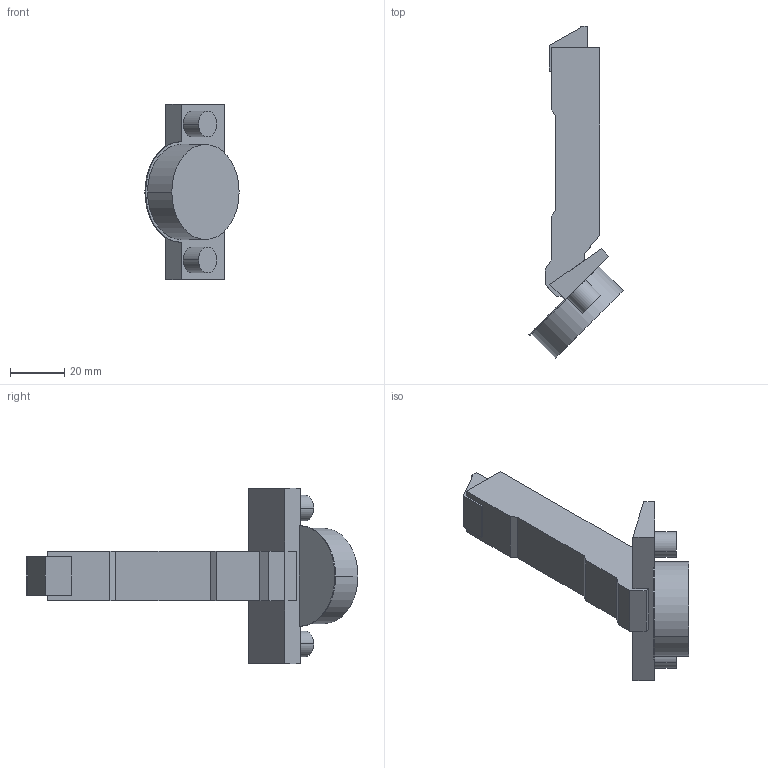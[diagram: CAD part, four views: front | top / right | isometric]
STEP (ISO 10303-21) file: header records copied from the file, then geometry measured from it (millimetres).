
FILE_DESCRIPTION (( 'STEP AP214' ), '1' );
FILE_NAME ('Scharnier T Impresso 120°_-45° HS_BB, aufliegend.step', '2010-12-13T09:58:23', ( 'grass' ), ( '' ), 'SwSTEP 2.0', 'SolidWorks 2010', '' );
FILE_SCHEMA (( 'AUTOMOTIVE_DESIGN' ));
Length unit declared in the file: millimetre
Products named in the file (1): Scharnier T Impresso 120°_-45° HS_BB, aufliegend
Bounding box: 34.65 x 122.12 x 64.5 mm (x, y, z)
Volume: 48300.4 mm3; surface area: 13390.6 mm2
Topology: 1 solids, 3 shells, 59 faces, 141 edges, 94 vertices
Faces by surface type: plane 42, cylinder 17
Entity records: 1739 total; most frequent: CARTESIAN_POINT 295, DIRECTION 295, ORIENTED_EDGE 282, EDGE_CURVE 141, VECTOR 107, LINE 107, AXIS2_PLACEMENT_3D 94, VERTEX_POINT 94
